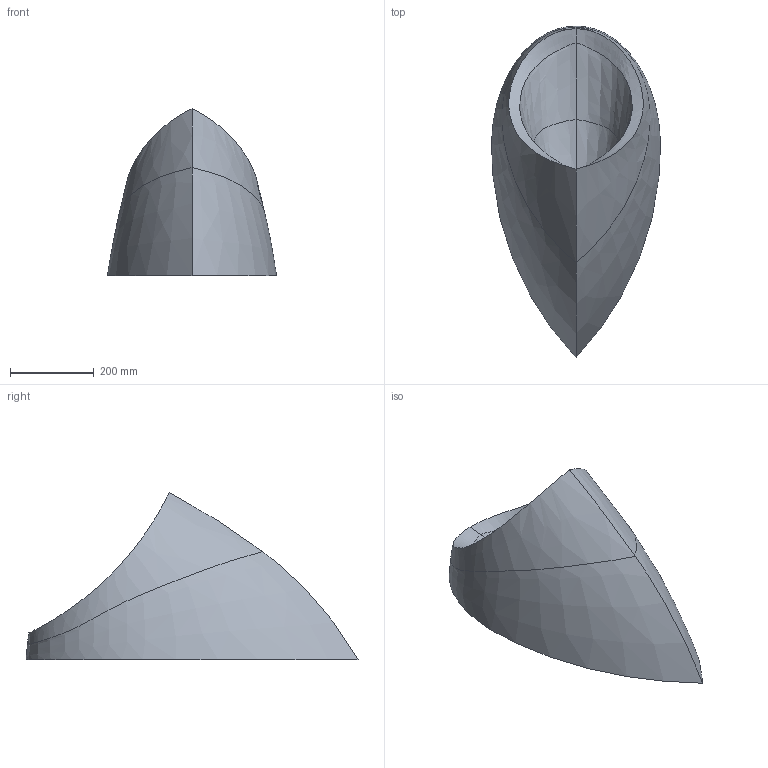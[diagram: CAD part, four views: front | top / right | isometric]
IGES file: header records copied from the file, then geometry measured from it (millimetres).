
Global section: file name: No Iges File Name specified; native system: Autodesk Inventor 2009; preprocessor: AutoDesk Inventor Iges Exporter R2009; author: Finn Lundsgaard; date: 20100203.205248; units: millimetre
Bounding box: 404.87 x 795 x 400 mm (x, y, z)
Volume: 2236765.3 mm3; surface area: 1416302.8 mm2
Topology: 3 solids, 3 shells, 153 faces, 382 edges, 237 vertices
Faces by surface type: bspline 63, revolution 28, plane 24, cone 16, torus 15, cylinder 7
